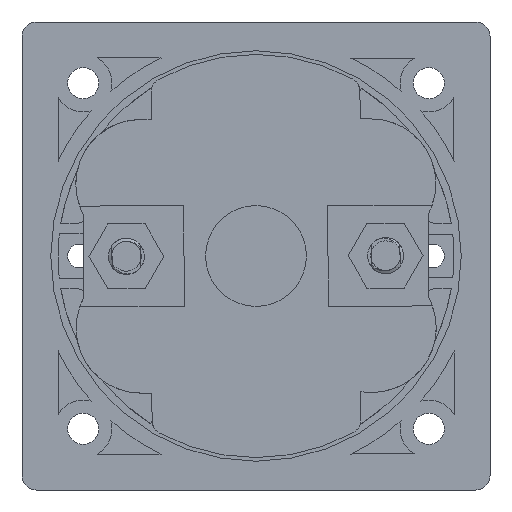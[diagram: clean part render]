
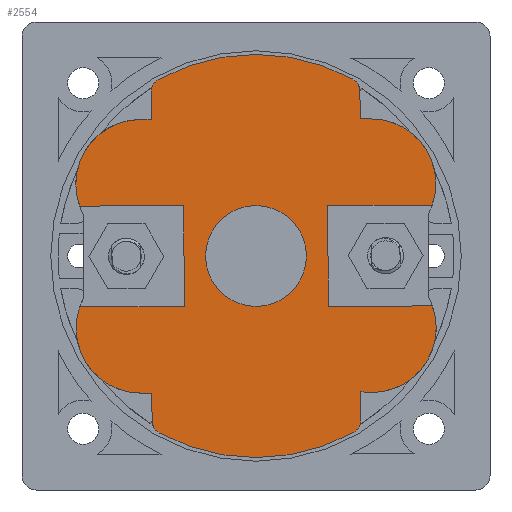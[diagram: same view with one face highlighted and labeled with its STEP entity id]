
A CAD part, front view. The second image highlights one B-rep face of the part: STEP entity #2554.
In plain terms, the highlighted planar face has unit normal (0, -1, 0).
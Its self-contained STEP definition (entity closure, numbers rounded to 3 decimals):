
#480=FACE_BOUND('',#5586,.T.);
#481=FACE_BOUND('',#5587,.T.);
#2554=ADVANCED_FACE('',(#480,#481),#3359,.F.);
#3359=PLANE('',#23010);
#5586=EDGE_LOOP('',(#11385,#11386,#11387,#11388,#11389,#11390,#11391,#11392,
#11393,#11394,#11395,#11396,#11397,#11398,#11399,#11400,#11401,#11402,#11403,
#11404,#11405,#11406,#11407,#11408,#11409));
#5587=EDGE_LOOP('',(#11410));
#6010=CIRCLE('',#21692,2.);
#6012=CIRCLE('',#21695,28.);
#6015=CIRCLE('',#21699,2.);
#6018=CIRCLE('',#21708,2.);
#6020=CIRCLE('',#21711,28.);
#6023=CIRCLE('',#21715,2.);
#6561=CIRCLE('',#22911,9.);
#6564=CIRCLE('',#22917,9.);
#6565=CIRCLE('',#22920,9.);
#6567=CIRCLE('',#22924,8.96);
#6569=CIRCLE('',#22928,9.);
#6588=CIRCLE('',#23000,7.);
#11385=ORIENTED_EDGE('',*,*,#17730,.F.);
#11386=ORIENTED_EDGE('',*,*,#17292,.T.);
#11387=ORIENTED_EDGE('',*,*,#17295,.T.);
#11388=ORIENTED_EDGE('',*,*,#15547,.T.);
#11389=ORIENTED_EDGE('',*,*,#15546,.T.);
#11390=ORIENTED_EDGE('',*,*,#15542,.T.);
#11391=ORIENTED_EDGE('',*,*,#15539,.T.);
#11392=ORIENTED_EDGE('',*,*,#15522,.T.);
#11393=ORIENTED_EDGE('',*,*,#17298,.T.);
#11394=ORIENTED_EDGE('',*,*,#17301,.T.);
#11395=ORIENTED_EDGE('',*,*,#17304,.T.);
#11396=ORIENTED_EDGE('',*,*,#17737,.F.);
#11397=ORIENTED_EDGE('',*,*,#17732,.F.);
#11398=ORIENTED_EDGE('',*,*,#17738,.F.);
#11399=ORIENTED_EDGE('',*,*,#17278,.T.);
#11400=ORIENTED_EDGE('',*,*,#17281,.T.);
#11401=ORIENTED_EDGE('',*,*,#15492,.T.);
#11402=ORIENTED_EDGE('',*,*,#15491,.T.);
#11403=ORIENTED_EDGE('',*,*,#15487,.T.);
#11404=ORIENTED_EDGE('',*,*,#15484,.T.);
#11405=ORIENTED_EDGE('',*,*,#15466,.T.);
#11406=ORIENTED_EDGE('',*,*,#17283,.T.);
#11407=ORIENTED_EDGE('',*,*,#17287,.T.);
#11408=ORIENTED_EDGE('',*,*,#17729,.F.);
#11409=ORIENTED_EDGE('',*,*,#17724,.F.);
#11410=ORIENTED_EDGE('',*,*,#17723,.F.);
#13315=VERTEX_POINT('',#29389);
#13316=VERTEX_POINT('',#29391);
#13329=VERTEX_POINT('',#29420);
#13332=VERTEX_POINT('',#29428);
#13334=VERTEX_POINT('',#29434);
#13337=VERTEX_POINT('',#29442);
#13359=VERTEX_POINT('',#29503);
#13360=VERTEX_POINT('',#29505);
#13373=VERTEX_POINT('',#29533);
#13376=VERTEX_POINT('',#29541);
#13378=VERTEX_POINT('',#29547);
#13381=VERTEX_POINT('',#29555);
#14523=VERTEX_POINT('',#62167);
#14524=VERTEX_POINT('',#62169);
#14526=VERTEX_POINT('',#62177);
#14529=VERTEX_POINT('',#62185);
#14532=VERTEX_POINT('',#62201);
#14533=VERTEX_POINT('',#62203);
#14536=VERTEX_POINT('',#62219);
#14538=VERTEX_POINT('',#62231);
#14540=VERTEX_POINT('',#62237);
#14828=VERTEX_POINT('',#90617);
#14829=VERTEX_POINT('',#90620);
#14830=VERTEX_POINT('',#90621);
#14833=VERTEX_POINT('',#90636);
#14834=VERTEX_POINT('',#90637);
#15466=EDGE_CURVE('',#13316,#13315,#18599,.T.);
#15484=EDGE_CURVE('',#13329,#13316,#6010,.T.);
#15487=EDGE_CURVE('',#13332,#13329,#6012,.T.);
#15491=EDGE_CURVE('',#13334,#13332,#6015,.T.);
#15492=EDGE_CURVE('',#13337,#13334,#18617,.T.);
#15522=EDGE_CURVE('',#13360,#13359,#18645,.T.);
#15539=EDGE_CURVE('',#13373,#13360,#6018,.T.);
#15542=EDGE_CURVE('',#13376,#13373,#6020,.T.);
#15546=EDGE_CURVE('',#13378,#13376,#6023,.T.);
#15547=EDGE_CURVE('',#13381,#13378,#18662,.T.);
#17278=EDGE_CURVE('',#14524,#14523,#6561,.T.);
#17281=EDGE_CURVE('',#14523,#13337,#19528,.T.);
#17283=EDGE_CURVE('',#13315,#14526,#19530,.T.);
#17287=EDGE_CURVE('',#14526,#14529,#6564,.T.);
#17292=EDGE_CURVE('',#14533,#14532,#6565,.T.);
#17295=EDGE_CURVE('',#14532,#13381,#19536,.T.);
#17298=EDGE_CURVE('',#13359,#14536,#6567,.T.);
#17301=EDGE_CURVE('',#14536,#14538,#19537,.T.);
#17304=EDGE_CURVE('',#14538,#14540,#6569,.T.);
#17723=EDGE_CURVE('',#14828,#14828,#6588,.T.);
#17724=EDGE_CURVE('',#14829,#14830,#19690,.T.);
#17729=EDGE_CURVE('',#14830,#14529,#19695,.T.);
#17730=EDGE_CURVE('',#14533,#14829,#19696,.T.);
#17732=EDGE_CURVE('',#14833,#14834,#19698,.T.);
#17737=EDGE_CURVE('',#14834,#14540,#19703,.T.);
#17738=EDGE_CURVE('',#14524,#14833,#19704,.T.);
#18599=LINE('',#29390,#20154);
#18617=LINE('',#29441,#20172);
#18645=LINE('',#29504,#20200);
#18662=LINE('',#29554,#20217);
#19528=LINE('',#62174,#21083);
#19530=LINE('',#62178,#21085);
#19536=LINE('',#62208,#21091);
#19537=LINE('',#62232,#21092);
#19690=LINE('',#90619,#21245);
#19695=LINE('',#90629,#21250);
#19696=LINE('',#90631,#21251);
#19698=LINE('',#90635,#21253);
#19703=LINE('',#90645,#21258);
#19704=LINE('',#90647,#21259);
#20154=VECTOR('',#23752,1.);
#20172=VECTOR('',#23794,1.);
#20200=VECTOR('',#23830,1.);
#20217=VECTOR('',#23871,1.);
#21083=VECTOR('',#27131,1.);
#21085=VECTOR('',#27135,1.);
#21091=VECTOR('',#27157,1.);
#21092=VECTOR('',#27164,1.);
#21245=VECTOR('',#27469,1.);
#21250=VECTOR('',#27476,1.);
#21251=VECTOR('',#27479,1.);
#21253=VECTOR('',#27485,1.);
#21258=VECTOR('',#27492,1.);
#21259=VECTOR('',#27495,1.);
#21692=AXIS2_PLACEMENT_3D('',#29425,#23774,#23775);
#21695=AXIS2_PLACEMENT_3D('',#29431,#23781,#23782);
#21699=AXIS2_PLACEMENT_3D('',#29439,#23790,#23791);
#21708=AXIS2_PLACEMENT_3D('',#29538,#23851,#23852);
#21711=AXIS2_PLACEMENT_3D('',#29544,#23858,#23859);
#21715=AXIS2_PLACEMENT_3D('',#29552,#23867,#23868);
#22911=AXIS2_PLACEMENT_3D('',#62168,#27124,#27125);
#22917=AXIS2_PLACEMENT_3D('',#62186,#27142,#27143);
#22920=AXIS2_PLACEMENT_3D('',#62202,#27150,#27151);
#22924=AXIS2_PLACEMENT_3D('',#62220,#27160,#27161);
#22928=AXIS2_PLACEMENT_3D('',#62238,#27170,#27171);
#23000=AXIS2_PLACEMENT_3D('',#90616,#27465,#27466);
#23010=AXIS2_PLACEMENT_3D('',#90651,#27501,#27502);
#23752=DIRECTION('',(0.003,0.,-1.));
#23774=DIRECTION('',(0.,-1.,0.));
#23775=DIRECTION('',(1.,0.,0.003));
#23781=DIRECTION('',(0.,-1.,0.));
#23782=DIRECTION('',(1.,0.,0.003));
#23790=DIRECTION('',(0.,-1.,0.));
#23791=DIRECTION('',(1.,0.,0.003));
#23794=DIRECTION('',(-0.003,0.,1.));
#23830=DIRECTION('',(-0.003,0.,1.));
#23851=DIRECTION('',(0.,-1.,0.));
#23852=DIRECTION('',(1.,0.,0.003));
#23858=DIRECTION('',(0.,-1.,0.));
#23859=DIRECTION('',(1.,0.,0.003));
#23867=DIRECTION('',(0.,-1.,0.));
#23868=DIRECTION('',(1.,0.,0.003));
#23871=DIRECTION('',(0.003,0.,-1.));
#27124=DIRECTION('',(0.,-1.,0.));
#27125=DIRECTION('',(1.,0.,0.003));
#27131=DIRECTION('',(-1.,0.,-0.003));
#27135=DIRECTION('',(-1.,0.,-0.003));
#27142=DIRECTION('',(0.,-1.,0.));
#27143=DIRECTION('',(-1.,0.,-0.003));
#27150=DIRECTION('',(0.,-1.,0.));
#27151=DIRECTION('',(-0.89,0.,0.456));
#27157=DIRECTION('',(1.,0.,0.003));
#27160=DIRECTION('',(0.,-1.,0.));
#27161=DIRECTION('',(0.,0.,-1.));
#27164=DIRECTION('',(1.,0.,0.003));
#27170=DIRECTION('',(0.,-1.,0.));
#27171=DIRECTION('',(0.,0.,-1.));
#27465=DIRECTION('',(0.,-1.,0.));
#27466=DIRECTION('',(-1.,0.,-0.003));
#27469=DIRECTION('',(-0.003,0.,1.));
#27476=DIRECTION('',(-1.,0.,-0.003));
#27479=DIRECTION('',(1.,0.,0.003));
#27485=DIRECTION('',(0.003,0.,-1.));
#27492=DIRECTION('',(1.,0.,0.003));
#27495=DIRECTION('',(-1.,0.,-0.003));
#27501=DIRECTION('',(0.,1.,0.));
#27502=DIRECTION('',(0.,0.,1.));
#29389=CARTESIAN_POINT('',(-14.549,-94.6,18.963));
#29390=CARTESIAN_POINT('',(-14.558,-94.6,22.761));
#29391=CARTESIAN_POINT('',(-14.558,-94.6,22.761));
#29420=CARTESIAN_POINT('',(-13.525,-94.6,24.517));
#29425=CARTESIAN_POINT('',(-12.558,-94.6,22.766));
#29428=CARTESIAN_POINT('',(13.398,-94.6,24.586));
#29431=CARTESIAN_POINT('',(0.,-94.6,0.));
#29434=CARTESIAN_POINT('',(14.441,-94.6,22.835));
#29439=CARTESIAN_POINT('',(12.441,-94.6,22.83));
#29441=CARTESIAN_POINT('',(14.451,-94.6,19.037));
#29442=CARTESIAN_POINT('',(14.451,-94.6,19.037));
#29503=CARTESIAN_POINT('',(14.548,-94.6,-18.837));
#29504=CARTESIAN_POINT('',(14.558,-94.6,-22.761));
#29505=CARTESIAN_POINT('',(14.558,-94.6,-22.761));
#29533=CARTESIAN_POINT('',(13.525,-94.6,-24.517));
#29538=CARTESIAN_POINT('',(12.558,-94.6,-22.766));
#29541=CARTESIAN_POINT('',(-13.398,-94.6,-24.586));
#29544=CARTESIAN_POINT('',(0.,-94.6,0.));
#29547=CARTESIAN_POINT('',(-14.441,-94.6,-22.835));
#29552=CARTESIAN_POINT('',(-12.441,-94.6,-22.83));
#29554=CARTESIAN_POINT('',(-14.451,-94.6,-19.037));
#29555=CARTESIAN_POINT('',(-14.451,-94.6,-19.037));
#62167=CARTESIAN_POINT('',(15.951,-94.6,19.041));
#62168=CARTESIAN_POINT('',(15.974,-94.6,10.041));
#62169=CARTESIAN_POINT('',(24.467,-94.6,7.063));
#62174=CARTESIAN_POINT('',(15.951,-94.6,19.041));
#62177=CARTESIAN_POINT('',(-16.049,-94.6,18.959));
#62178=CARTESIAN_POINT('',(-14.549,-94.6,18.963));
#62185=CARTESIAN_POINT('',(-24.503,-94.6,6.937));
#62186=CARTESIAN_POINT('',(-16.026,-94.6,9.959));
#62201=CARTESIAN_POINT('',(-15.951,-94.6,-19.041));
#62202=CARTESIAN_POINT('',(-15.974,-94.6,-10.041));
#62203=CARTESIAN_POINT('',(-24.468,-94.6,-7.063));
#62208=CARTESIAN_POINT('',(23.753,-94.6,-18.934));
#62219=CARTESIAN_POINT('',(15.978,-94.6,-18.959));
#62220=CARTESIAN_POINT('',(16.02,-94.6,-9.999));
#62231=CARTESIAN_POINT('',(16.119,-94.6,-18.958));
#62232=CARTESIAN_POINT('',(23.752,-94.6,-18.938));
#62237=CARTESIAN_POINT('',(24.503,-94.6,-6.937));
#62238=CARTESIAN_POINT('',(16.026,-94.6,-9.959));
#90616=CARTESIAN_POINT('',(0.,-94.6,0.));
#90617=CARTESIAN_POINT('',(-7.,-94.6,-0.018));
#90619=CARTESIAN_POINT('',(-9.982,-94.6,-7.026));
#90620=CARTESIAN_POINT('',(-9.982,-94.6,-7.026));
#90621=CARTESIAN_POINT('',(-10.018,-94.6,6.974));
#90629=CARTESIAN_POINT('',(-10.018,-94.6,6.974));
#90631=CARTESIAN_POINT('',(-34.164,-94.6,-7.088));
#90635=CARTESIAN_POINT('',(9.982,-94.6,7.026));
#90636=CARTESIAN_POINT('',(9.982,-94.6,7.026));
#90637=CARTESIAN_POINT('',(10.018,-94.6,-6.974));
#90645=CARTESIAN_POINT('',(10.018,-94.6,-6.974));
#90647=CARTESIAN_POINT('',(34.164,-94.6,7.088));
#90651=CARTESIAN_POINT('',(23.741,-94.6,-14.593));
